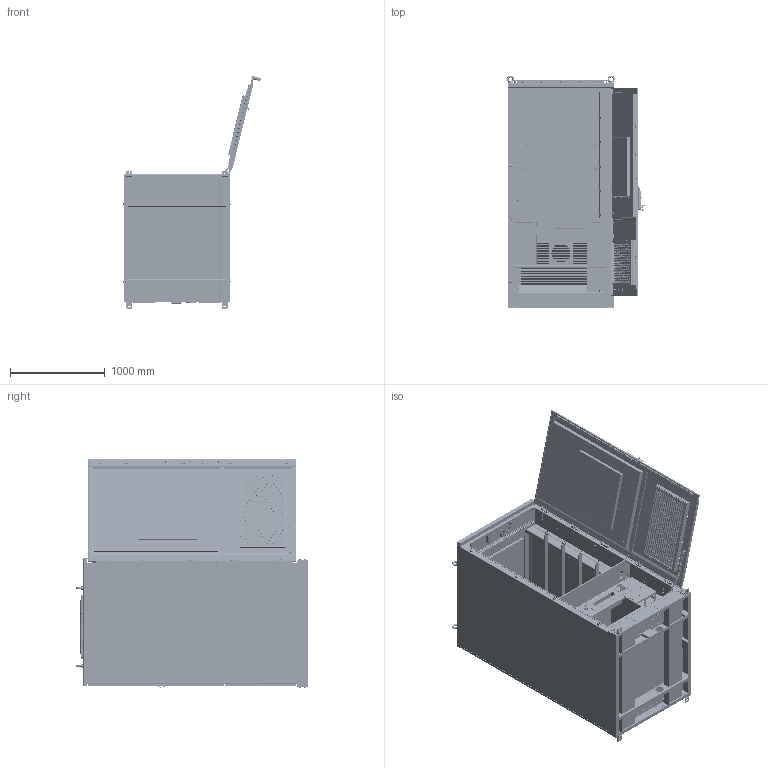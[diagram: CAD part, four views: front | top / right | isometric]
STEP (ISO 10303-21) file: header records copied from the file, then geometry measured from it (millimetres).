
FILE_DESCRIPTION (( 'STEP AP203' ), '1' );
FILE_NAME ('工商业储能一体机（314AH 125KW-261KWH CE）.STEP', '2025-01-10T06:20:41', ( '' ), ( '' ), 'SwSTEP 2.0', 'SolidWorks 2020', '' );
FILE_SCHEMA (( 'CONFIG_CONTROL_DESIGN' ));
Length unit declared in the file: millimetre
Products named in the file (143): 諾羲猾啣A; 萇喀組藷綴裔; 啃珔敦01; 嘐隅釱啣B; 詢揤眊結啣; 結扷啣; 諾羲假蚾釱; hexagon head bolts-full thread gb_GB_FASTENER_BOLT_STBAB A M8X25-N; 烟感探测器、锂离子探测器安装座(CE); 107-8000.00-00000.17.STEP; 傷赽絳寢嘐隅釱B; 热融胶条; CL283-1.STEP; 諷秶眊癹弇; 噩砃萇喀絳寢; 340絳寢; 旂蹬猾啣G; 8SJ.LS504-2.0720____.STEP; 菁筵褽A; 噩砃徹傾埴褒蜊; 8SJ.LS504-2.0010____.STEP; 菁筵褽; T-YB2118-01.STEP; LS504-2嶺忒.STEP; prevailing torque type style 1 gb_GB_HEXAGON_TYPE9 M5-N; 菁軝褽; hexagon head bolts-full thread gb_GB_FASTENER_BOLT_STBAB A M12X30-N; 霧齪; 脣羞樓Ч踐; ﾏﾟｲﾛ[33｡ﾁ33｡ﾁ800-S] _35｡ﾁ50; 萇喀絳寢; 盓嫉; 框架_默认<按加工>; 萇喀眊假蚾褒啣; _____1_1.STEP; 階啣; 菁樓Ч啣A; 隅擒藷癹弇ん; GB-T896E_______GB_CONNECTING_PIECE_RINGS_HR 4.STEP; 电池仓前门组件（凹凸门）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
Assembly tree (363 placements, depth 5):
  工商业储能一体机（314AH  125KW-261KWH CE）
    等嶄
      框架_默认<按加工>
      階啣
      褒翐
      褒翐B
      菁啣
      徹傾埴褒蜊  x6
      階啣硃啣A  x2
      階啣硃啣B  x2
      噩砃徹傾埴褒蜊  x6
      旂蹬猾啣A  x2
      萇喀絳寢  x5
      噩砃萇喀絳寢  x5
      狟筵褽
      旂蹬猾啣F
      旂蹬猾啣C
      裂嫉啣  x4
      藷癹弇嘐隅釱B
      旂蹬猾啣I  x3
      旂蹬猾啣E  x2
      嘐隅釱  x14
      傷赽絳寢嘐隅釱
      諉華齬  x2
      eyenuts gb.step  x4
      傷赽絳寢嘐隅釱B
      旂蹬猾啣B  x2
      絳瑞啣A
      旂蹬猾啣G
      盓嫉
      諷秶眊癹弇  x2
      旂蹬猾啣J
      瑞耋
      珘濮奪嘐隅釱  x7
      气溶胶安装座
      諾羲假蚾釱  x2
    CL283-1.STEP
      8SJ.CL283-1.003____.STEP
      8SJ.CL283-2.002______.STEP
      GB-T896E_______GB_CONNECTING_PIECE_RINGS_HR 4.STEP
      8SJ.CL283-1.001______.STEP
    CL283-1.STEP
      8SJ.CL283-1.003____.STEP
      8SJ.CL283-2.002______.STEP
      GB-T896E_______GB_CONNECTING_PIECE_RINGS_HR 4.STEP
      8SJ.CL283-1.001______.STEP
    CL283-1.STEP
      8SJ.CL283-1.003____.STEP
      8SJ.CL283-2.002______.STEP
      GB-T896E_______GB_CONNECTING_PIECE_RINGS_HR 4.STEP
      8SJ.CL283-1.001______.STEP
    电池仓前门组件（凹凸门）
      藷圮
      LG004.STEP
        ^LG004(2)_LG004.STEP
        ____ (2) ^LG004(2)_LG004.STEP  x2
        ____ (3) ^LG004(2)_LG004.STEP  x2
      LG004.STEP
        ^LG004(2)_LG004.STEP
        ____ (2) ^LG004(2)_LG004.STEP  x2
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Bounding box: 1461.98 x 2461 x 2467.63 mm (x, y, z)
Volume: 82954662.3 mm3; surface area: 88858555.2 mm2
Topology: 670 solids, 2309 shells, 38257 faces, 105422 edges, 69933 vertices
Faces by surface type: plane 20865, cylinder 11125, bspline 4077, cone 1994, torus 128, sphere 68
Entity records: 1273878 total; most frequent: CARTESIAN_POINT 478089, ORIENTED_EDGE 169850, DIRECTION 138719, EDGE_CURVE 89601, VERTEX_POINT 60338, LINE 46755, VECTOR 46755, AXIS2_PLACEMENT_3D 45982
